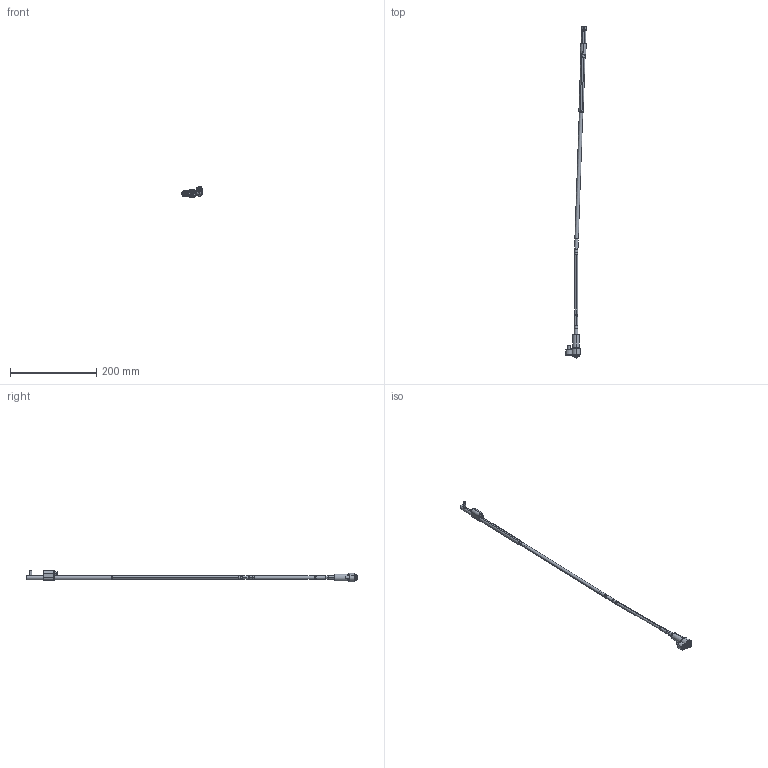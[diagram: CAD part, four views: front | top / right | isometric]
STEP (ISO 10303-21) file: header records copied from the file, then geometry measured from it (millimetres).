
FILE_DESCRIPTION (( 'STEP AP214' ), '1' );
FILE_NAME ('WL080125-INJ 2°.STEP', '2021-03-19T15:30:54', ( '' ), ( '' ), 'SwSTEP 2.0', 'SolidWorks 2019', '' );
FILE_SCHEMA (( 'AUTOMOTIVE_DESIGN' ));
Length unit declared in the file: millimetre
Products named in the file (17): 1DIN912545_DIN 912 M5 x 50 --- 50C; WL080100-B1_WL0800FF-1; WL080125-INJ 2°; Web-WL08-A1; WL080100-D; Web-WL08-F00.SLDPRT; 9DR2206-TOR; WL080100-B_WL0800FF; Web-WP08-1; 3IMAN4X2-150_con sello; Web-WL08-A2; Web-WL08-A3; WL080100-E; Web-WL08-F01; WL080100-C; 1DIN912616_DIN 912 M6 x 16 --- 16C; Web-WL08XX-A7_OFF-WL080125-2
Assembly tree (16 placements, depth 3):
  WL080125-INJ 2°
    Web-WP08-1
    Web-WL08XX-A7_OFF-WL080125-2
    Web-WL08-A3
    Web-WL08-A2
    Web-WL08-A1
    WL080100-D
    WL080100-C
    WL080100-B_WL0800FF
      WL080100-B1_WL0800FF-1
      3IMAN4X2-150_con sello
    WL080100-E
    9DR2206-TOR
    Web-WL08-F00.SLDPRT
      Web-WL08-F01
      1DIN912545_DIN 912 M5 x 50 --- 50C
      1DIN912616_DIN 912 M6 x 16 --- 16C
Bounding box: 47.46 x 771.84 x 26.9 mm (x, y, z)
Volume: 58701.6 mm3; surface area: 34416 mm2
Topology: 15 solids, 15 shells, 424 faces, 888 edges, 516 vertices
Faces by surface type: plane 132, cylinder 128, cone 116, torus 48
Entity records: 13492 total; most frequent: DIRECTION 2218, CARTESIAN_POINT 2045, ORIENTED_EDGE 1756, AXIS2_PLACEMENT_3D 921, EDGE_CURVE 878, VERTEX_POINT 516, CIRCLE 476, EDGE_LOOP 468
